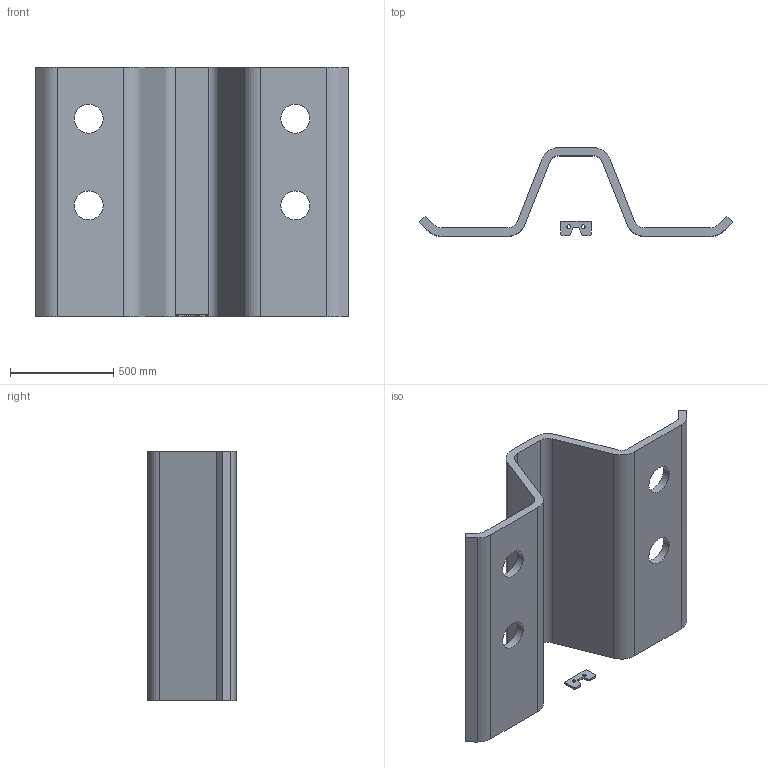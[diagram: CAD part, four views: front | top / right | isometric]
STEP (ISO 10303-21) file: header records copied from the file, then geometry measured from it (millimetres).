
FILE_DESCRIPTION(/* description */ (''),/* implementation_level */ '2;1');
FILE_NAME(/* name */ 'ZB140W70.stp',/* time_stamp */ '2023-07-03T11:25:11+02:00',/* author */ ('woriedl'),/* organization */ (''),/* preprocessor_version */ 'ST-DEVELOPER v19.2',/* originating_system */ 'AutoCAD Mechanical',/* authorisation */ '');
FILE_SCHEMA (('AUTOMOTIVE_DESIGN { 1 0 10303 214 3 1 1 }'));
Length unit declared in the file: centimetre
Products named in the file (2): Product; ZC140
Assembly tree (1 placements, depth 2):
  Product
    ZC140
Bounding box: 1517.2 x 430 x 1210 mm (x, y, z)
Volume: 95301594.6 mm3; surface area: 5111876.4 mm2
Topology: 2 solids, 2 shells, 54 faces, 150 edges, 100 vertices
Faces by surface type: plane 30, cylinder 24
Full cylindrical faces by diameter (mm): 18 x2, 140 x4
Entity records: 1810 total; most frequent: DIRECTION 312, CARTESIAN_POINT 307, ORIENTED_EDGE 300, EDGE_CURVE 150, AXIS2_PLACEMENT_3D 105, LINE 102, VECTOR 102, VERTEX_POINT 100
